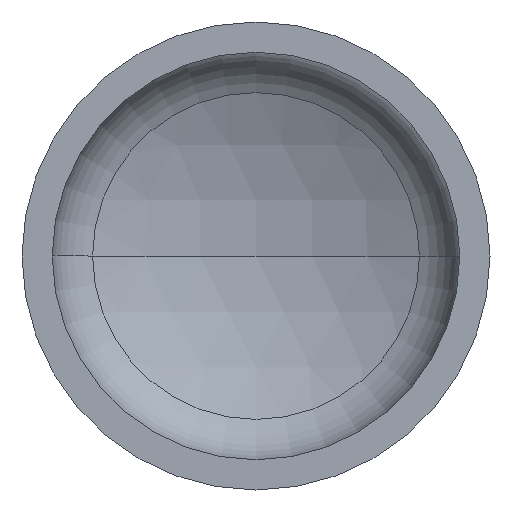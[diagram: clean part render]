
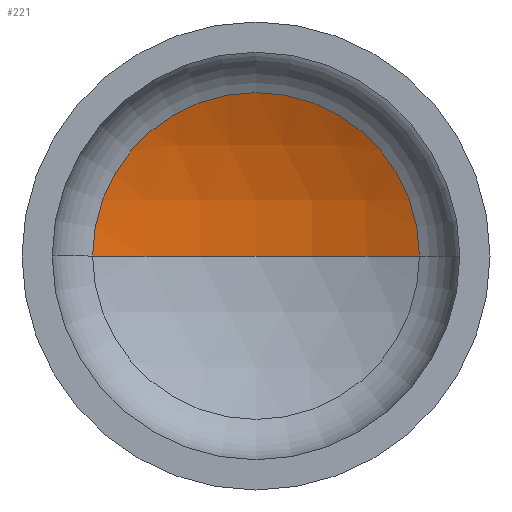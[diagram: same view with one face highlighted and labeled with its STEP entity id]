
A CAD part, front view. The second image highlights one B-rep face of the part: STEP entity #221.
In plain terms, the highlighted spherical face has radius 1360 mm.
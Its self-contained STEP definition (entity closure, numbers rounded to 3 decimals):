
#2 = AXIS2_PLACEMENT_3D ( 'NONE', #384, #248, #405 ) ;
#13 = EDGE_LOOP ( 'NONE', ( #111, #76, #67 ) ) ;
#14 = AXIS2_PLACEMENT_3D ( 'NONE', #381, #191, #360 ) ;
#26 = CIRCLE ( 'NONE', #14, 1360. ) ;
#29 = VERTEX_POINT ( 'NONE', #242 ) ;
#33 = VERTEX_POINT ( 'NONE', #277 ) ;
#39 = DIRECTION ( 'NONE',  ( -1., 0., 0. ) ) ;
#48 = DIRECTION ( 'NONE',  ( 0., -1., 0. ) ) ;
#62 = CIRCLE ( 'NONE', #63, 593.455 ) ;
#63 = AXIS2_PLACEMENT_3D ( 'NONE', #263, #48, #374 ) ;
#67 = ORIENTED_EDGE ( 'NONE', *, *, #327, .T. ) ;
#76 = ORIENTED_EDGE ( 'NONE', *, *, #366, .T. ) ;
#92 = VERTEX_POINT ( 'NONE', #239 ) ;
#100 = AXIS2_PLACEMENT_3D ( 'NONE', #190, #396, #39 ) ;
#111 = ORIENTED_EDGE ( 'NONE', *, *, #363, .F. ) ;
#177 = CIRCLE ( 'NONE', #2, 1360. ) ;
#190 = CARTESIAN_POINT ( 'NONE',  ( 0., -914.747, 0. ) ) ;
#191 = DIRECTION ( 'NONE',  ( 0., 0., 1. ) ) ;
#199 = FACE_OUTER_BOUND ( 'NONE', #13, .T. ) ;
#221 = ADVANCED_FACE ( 'NONE', ( #199 ), #392, .F. ) ;
#239 = CARTESIAN_POINT ( 'NONE',  ( -593.455, 308.94, 0. ) ) ;
#242 = CARTESIAN_POINT ( 'NONE',  ( 0., 445.253, 0. ) ) ;
#248 = DIRECTION ( 'NONE',  ( 0., 0., -1. ) ) ;
#263 = CARTESIAN_POINT ( 'NONE',  ( 0., 308.94, 0. ) ) ;
#277 = CARTESIAN_POINT ( 'NONE',  ( 593.455, 308.94, 0. ) ) ;
#327 = EDGE_CURVE ( 'NONE', #33, #92, #62, .T. ) ;
#360 = DIRECTION ( 'NONE',  ( 1., 0., 0. ) ) ;
#363 = EDGE_CURVE ( 'NONE', #29, #92, #26, .T. ) ;
#366 = EDGE_CURVE ( 'NONE', #29, #33, #177, .T. ) ;
#374 = DIRECTION ( 'NONE',  ( 1., 0., 0. ) ) ;
#381 = CARTESIAN_POINT ( 'NONE',  ( 0., -914.747, 0. ) ) ;
#384 = CARTESIAN_POINT ( 'NONE',  ( 0., -914.747, 0. ) ) ;
#392 = SPHERICAL_SURFACE ( 'NONE', #100, 1360. ) ;
#396 = DIRECTION ( 'NONE',  ( 0., 0., -1. ) ) ;
#405 = DIRECTION ( 'NONE',  ( -1., 0., 0. ) ) ;
